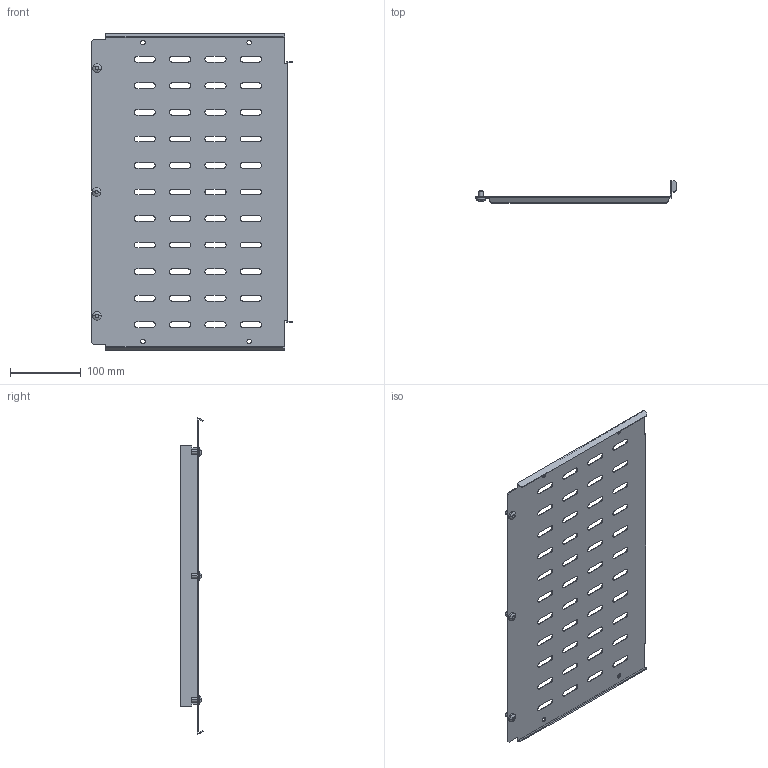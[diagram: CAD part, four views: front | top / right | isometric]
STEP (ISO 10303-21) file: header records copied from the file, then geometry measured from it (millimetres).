
FILE_DESCRIPTION (( 'STEP AP214' ), '1' );
FILE_NAME ('FO-00-SWFÑ-045 Ïåðåãîðîäêà ñåêöèîíèðîâàíèÿ çàäíÿÿ äëÿ âåðòèêàëüíîãî êàáåëüíîãî îòñåêà âûñîòà 450 ìì â øêàô øèðèíîé 600 ìì.STEP', '2025-08-13T12:58:55', ( '' ), ( '' ), 'SwSTEP 2.0', 'SolidWorks 2023', '' );
FILE_SCHEMA (( 'AUTOMOTIVE_DESIGN' ));
Length unit declared in the file: millimetre
Products named in the file (1): FO-00-SWFС-045 Перегородка секционирования задняя для вертикального кабельного отсека высота 450 мм в шкаф шириной 600 мм
Bounding box: 283.5 x 31.66 x 447.2 mm (x, y, z)
Volume: 189348.7 mm3; surface area: 258240.1 mm2
Topology: 1 solids, 1 shells, 331 faces, 951 edges, 628 vertices
Faces by surface type: cylinder 159, plane 154, torus 6, cone 6, sphere 6
Entity records: 11192 total; most frequent: CARTESIAN_POINT 2112, ORIENTED_EDGE 1902, DIRECTION 1861, EDGE_CURVE 951, AXIS2_PLACEMENT_3D 629, VERTEX_POINT 628, VECTOR 603, LINE 603
